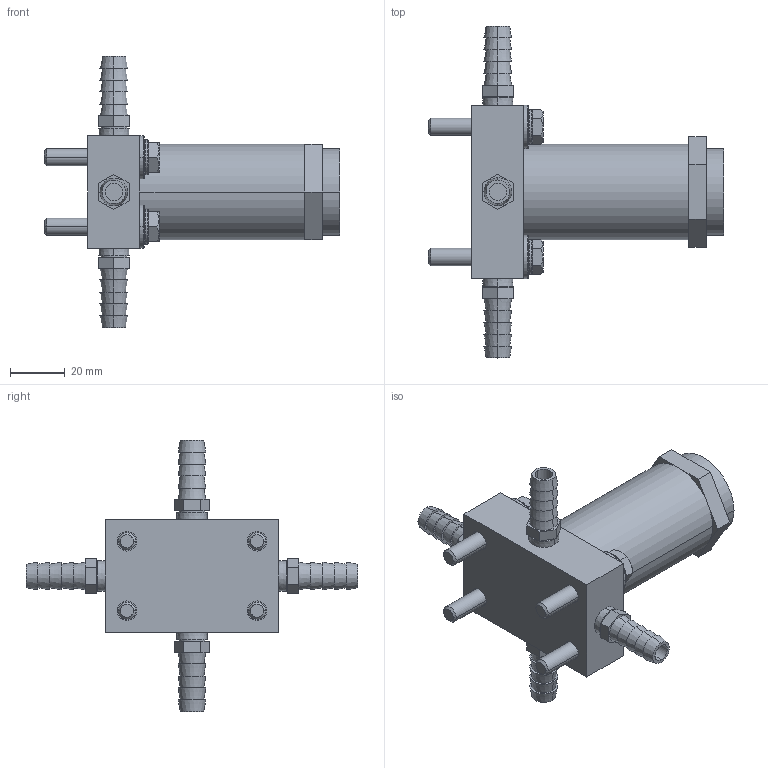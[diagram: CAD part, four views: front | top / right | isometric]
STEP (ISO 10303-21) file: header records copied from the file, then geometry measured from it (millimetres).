
FILE_DESCRIPTION((''),'2;1');
FILE_NAME('XLR3_ASM','2017-08-24T',('jennifer.elliott'),('CenterLine (Windsor) Ltd - Automation Components Division'),'PRO/ENGINEER BY PARAMETRIC TECHNOLOGY CORPORATION, 2015030','PRO/ENGINEER BY PARAMETRIC TECHNOLOGY CORPORATION, 2015030','');
FILE_SCHEMA(('AUTOMOTIVE_DESIGN { 1 0 10303 214 1 1 1 1 }'));
Length unit declared in the file: inch
Products named in the file (18): PRT1620; PRT1621; PRT1622; PRT1623; PRT1624; PRT1625; PRT1626; PRT1627; PRT1628; PRT1629; ASM0025_ASM; PRT1630; PRT1631; PRT1632; PRT1633; PRT1634; TMP_DWG-3DSOLID_105; XLR3_ASM
Assembly tree (17 placements, depth 3):
  XLR3_ASM
    PRT1620
    PRT1621
    PRT1622
    PRT1623
    PRT1624
    PRT1625
    ASM0025_ASM
      PRT1626
      PRT1627
      PRT1628
      PRT1629
    PRT1630
    PRT1631
    PRT1632
    PRT1633
    PRT1634
    TMP_DWG-3DSOLID_105
Bounding box: 107.95 x 121.41 x 99.19 mm (x, y, z)
Volume: 129640.7 mm3; surface area: 37884.1 mm2
Topology: 16 solids, 16 shells, 294 faces, 670 edges, 440 vertices
Faces by surface type: plane 134, cone 80, cylinder 56, torus 24
Entity records: 9835 total; most frequent: CARTESIAN_POINT 1944, DIRECTION 1556, ORIENTED_EDGE 1340, EDGE_CURVE 670, AXIS2_PLACEMENT_3D 641, VERTEX_POINT 440, EDGE_LOOP 350, CIRCLE 308
